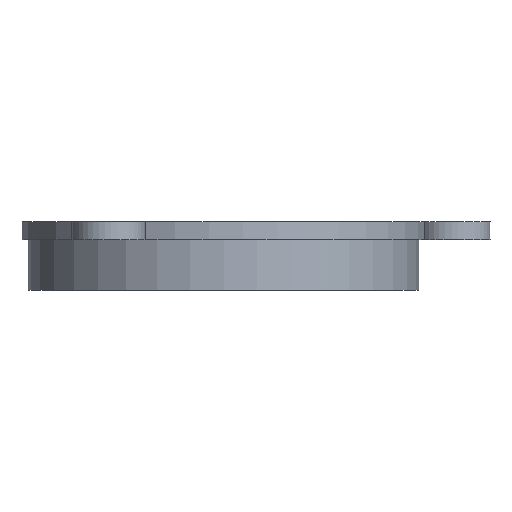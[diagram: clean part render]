
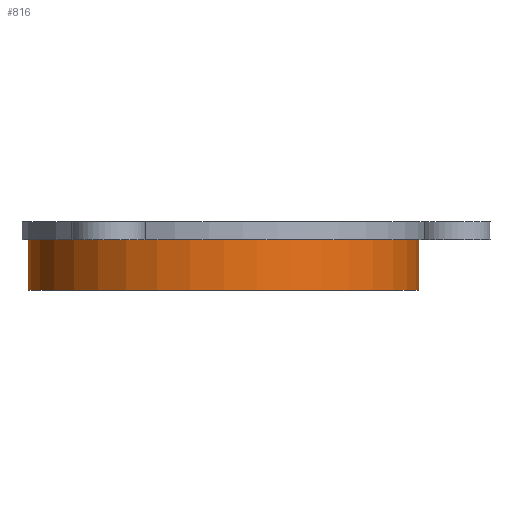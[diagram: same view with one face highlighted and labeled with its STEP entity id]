
A CAD part, left-side view. The second image highlights one B-rep face of the part: STEP entity #816.
In plain terms, the highlighted cylindrical face has radius 42.5 mm (diameter 85 mm), a full revolution.
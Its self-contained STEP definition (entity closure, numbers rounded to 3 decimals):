
#45 = PLANE('',#46);
#46 = AXIS2_PLACEMENT_3D('',#47,#48,#49);
#47 = CARTESIAN_POINT('',(0.,0.,-4.));
#48 = DIRECTION('',(0.,0.,1.));
#49 = DIRECTION('',(1.,0.,-0.));
#349 = EDGE_CURVE('',#350,#350,#352,.T.);
#350 = VERTEX_POINT('',#351);
#351 = CARTESIAN_POINT('',(42.5,0.,-4.));
#352 = SURFACE_CURVE('',#353,(#358,#365),.PCURVE_S1.);
#353 = CIRCLE('',#354,42.5);
#354 = AXIS2_PLACEMENT_3D('',#355,#356,#357);
#355 = CARTESIAN_POINT('',(0.,0.,-4.));
#356 = DIRECTION('',(0.,0.,1.));
#357 = DIRECTION('',(1.,0.,0.));
#358 = PCURVE('',#45,#359);
#359 = DEFINITIONAL_REPRESENTATION('',(#360),#364);
#360 = CIRCLE('',#361,42.5);
#361 = AXIS2_PLACEMENT_2D('',#362,#363);
#362 = CARTESIAN_POINT('',(0.,0.));
#363 = DIRECTION('',(1.,0.));
#364 = ( GEOMETRIC_REPRESENTATION_CONTEXT(2) 
PARAMETRIC_REPRESENTATION_CONTEXT() REPRESENTATION_CONTEXT('2D SPACE',''
  ) );
#365 = PCURVE('',#366,#371);
#366 = CYLINDRICAL_SURFACE('',#367,42.5);
#367 = AXIS2_PLACEMENT_3D('',#368,#369,#370);
#368 = CARTESIAN_POINT('',(0.,0.,-15.));
#369 = DIRECTION('',(-0.,-0.,-1.));
#370 = DIRECTION('',(1.,0.,0.));
#371 = DEFINITIONAL_REPRESENTATION('',(#372),#376);
#372 = LINE('',#373,#374);
#373 = CARTESIAN_POINT('',(-0.,-11.));
#374 = VECTOR('',#375,1.);
#375 = DIRECTION('',(-1.,0.));
#376 = ( GEOMETRIC_REPRESENTATION_CONTEXT(2) 
PARAMETRIC_REPRESENTATION_CONTEXT() REPRESENTATION_CONTEXT('2D SPACE',''
  ) );
#816 = ADVANCED_FACE('',(#817),#366,.T.);
#817 = FACE_BOUND('',#818,.F.);
#818 = EDGE_LOOP('',(#819,#842,#843,#844));
#819 = ORIENTED_EDGE('',*,*,#820,.T.);
#820 = EDGE_CURVE('',#821,#350,#823,.T.);
#821 = VERTEX_POINT('',#822);
#822 = CARTESIAN_POINT('',(42.5,0.,-15.));
#823 = SEAM_CURVE('',#824,(#828,#835),.PCURVE_S1.);
#824 = LINE('',#825,#826);
#825 = CARTESIAN_POINT('',(42.5,0.,-15.));
#826 = VECTOR('',#827,1.);
#827 = DIRECTION('',(0.,0.,1.));
#828 = PCURVE('',#366,#829);
#829 = DEFINITIONAL_REPRESENTATION('',(#830),#834);
#830 = LINE('',#831,#832);
#831 = CARTESIAN_POINT('',(-0.,0.));
#832 = VECTOR('',#833,1.);
#833 = DIRECTION('',(-0.,-1.));
#834 = ( GEOMETRIC_REPRESENTATION_CONTEXT(2) 
PARAMETRIC_REPRESENTATION_CONTEXT() REPRESENTATION_CONTEXT('2D SPACE',''
  ) );
#835 = PCURVE('',#366,#836);
#836 = DEFINITIONAL_REPRESENTATION('',(#837),#841);
#837 = LINE('',#838,#839);
#838 = CARTESIAN_POINT('',(-6.283,0.));
#839 = VECTOR('',#840,1.);
#840 = DIRECTION('',(-0.,-1.));
#841 = ( GEOMETRIC_REPRESENTATION_CONTEXT(2) 
PARAMETRIC_REPRESENTATION_CONTEXT() REPRESENTATION_CONTEXT('2D SPACE',''
  ) );
#842 = ORIENTED_EDGE('',*,*,#349,.T.);
#843 = ORIENTED_EDGE('',*,*,#820,.F.);
#844 = ORIENTED_EDGE('',*,*,#845,.F.);
#845 = EDGE_CURVE('',#821,#821,#846,.T.);
#846 = SURFACE_CURVE('',#847,(#852,#859),.PCURVE_S1.);
#847 = CIRCLE('',#848,42.5);
#848 = AXIS2_PLACEMENT_3D('',#849,#850,#851);
#849 = CARTESIAN_POINT('',(0.,0.,-15.));
#850 = DIRECTION('',(0.,0.,1.));
#851 = DIRECTION('',(1.,0.,0.));
#852 = PCURVE('',#366,#853);
#853 = DEFINITIONAL_REPRESENTATION('',(#854),#858);
#854 = LINE('',#855,#856);
#855 = CARTESIAN_POINT('',(-0.,0.));
#856 = VECTOR('',#857,1.);
#857 = DIRECTION('',(-1.,0.));
#858 = ( GEOMETRIC_REPRESENTATION_CONTEXT(2) 
PARAMETRIC_REPRESENTATION_CONTEXT() REPRESENTATION_CONTEXT('2D SPACE',''
  ) );
#859 = PCURVE('',#860,#865);
#860 = PLANE('',#861);
#861 = AXIS2_PLACEMENT_3D('',#862,#863,#864);
#862 = CARTESIAN_POINT('',(0.,0.,-15.)
  );
#863 = DIRECTION('',(0.,0.,1.));
#864 = DIRECTION('',(1.,0.,-0.));
#865 = DEFINITIONAL_REPRESENTATION('',(#866),#870);
#866 = CIRCLE('',#867,42.5);
#867 = AXIS2_PLACEMENT_2D('',#868,#869);
#868 = CARTESIAN_POINT('',(0.,0.));
#869 = DIRECTION('',(1.,0.));
#870 = ( GEOMETRIC_REPRESENTATION_CONTEXT(2) 
PARAMETRIC_REPRESENTATION_CONTEXT() REPRESENTATION_CONTEXT('2D SPACE',''
  ) );
